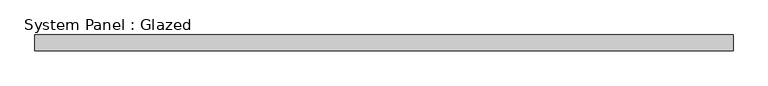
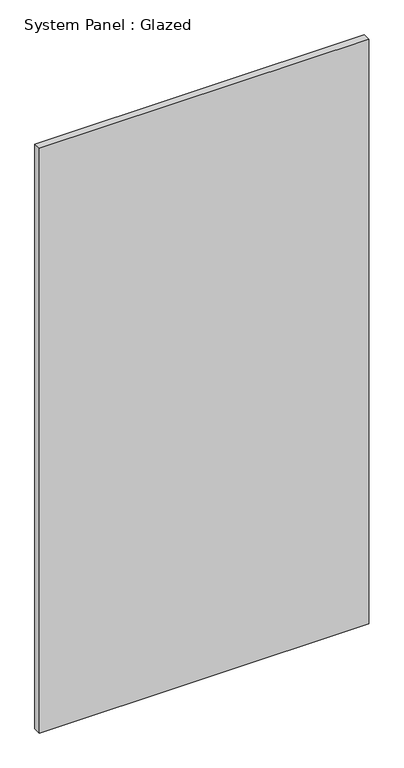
"""IFC4 building model written with IfcOpenShell, lengths in millimetres: plate geometry, System Panel : Glazed."""

import ifcopenshell
import ifcopenshell.guid

model = None  # the IFC model being written
_history = None  # IfcOwnerHistory: only IFC2X3 demands one
_inside = {}  # id of a spatial element -> (the spatial element, [elements in it])
_under = {}  # id of a project, library or spatial element -> (it, [spatial elements below it])
_declared = {}  # id of a project -> (the project, [libraries it declares])
_typed = {}  # id of a type object -> (the type object, [elements of that type])
_made_of = {}  # id of a material, layer set ... -> (it, [elements and type objects made of it])


def new_model(schema):
    """Start an empty IFC model of exactly this schema.

    Asked for "IFC4X3", IfcOpenShell would pick the latest addendum, in which some entities
    have other attributes; the version numbers below select the first issue.
    IFC2X3 requires an IfcOwnerHistory on every rooted entity: one is made here for all.
    """
    global model, _history
    if schema == "IFC4X3":
        model = ifcopenshell.file(schema_version=(4, 3, 0, 0))
    else:
        model = ifcopenshell.file(schema=schema)
    _inside.clear()
    _under.clear()
    _declared.clear()
    _typed.clear()
    _made_of.clear()
    _history = None
    if model.schema == "IFC2X3":
        org = make("IfcOrganization", Name="unknown")
        user = make(
            "IfcPersonAndOrganization",
            ThePerson=make("IfcPerson", FamilyName="unknown"),
            TheOrganization=org,
        )
        app = make(
            "IfcApplication",
            ApplicationDeveloper=org,
            Version="unknown",
            ApplicationFullName="unknown",
            ApplicationIdentifier="unknown",
        )
        _history = make(
            "IfcOwnerHistory",
            OwningUser=user,
            OwningApplication=app,
            ChangeAction="ADDED",
            CreationDate=0,
        )
    return model


def make(cls, **values):
    """One entity of the class cls with the attributes given. An attribute that is None is left unset."""
    return model.create_entity(
        cls, **{name: value for name, value in values.items() if value is not None}
    )


def rooted(cls, **values):
    """An entity with a GlobalId (a new one), such as an element, a storey or a relation."""
    return make(cls, GlobalId=ifcopenshell.guid.new(), OwnerHistory=_history, **values)


def si_unit(unit_type, name, prefix=None):
    """IfcSIUnit, for example si_unit("LENGTHUNIT", "METRE", prefix="MILLI")."""
    return make("IfcSIUnit", UnitType=unit_type, Prefix=prefix, Name=name)


def assignment(units):
    """IfcUnitAssignment: the units of a project."""
    return None if units is None else make("IfcUnitAssignment", Units=units)


def point(xyz):
    """IfcCartesianPoint."""
    return None if xyz is None else make("IfcCartesianPoint", Coordinates=xyz)


def direction(xyz):
    """IfcDirection."""
    return None if xyz is None else make("IfcDirection", DirectionRatios=xyz)


def frame(location, z_axis=None, x_axis=None):
    """IfcAxis2Placement3D, a coordinate frame: its origin and axes. An axis left out is left unset."""
    return make(
        "IfcAxis2Placement3D",
        Location=point(location),
        Axis=direction(z_axis),
        RefDirection=direction(x_axis),
    )


def origin():
    """The frame at (0, 0, 0) with its axes left unset."""
    return frame((0.0, 0.0, 0.0))


def origin_with_axes():
    """The frame at (0, 0, 0) with the z axis (0, 0, 1) and the x axis (1, 0, 0) written out."""
    return frame((0.0, 0.0, 0.0), z_axis=(0.0, 0.0, 1.0), x_axis=(1.0, 0.0, 0.0))


def place(relative_to, where):
    """IfcLocalPlacement: puts the frame where relative to a parent placement (None: the world)."""
    return make(
        "IfcLocalPlacement", PlacementRelTo=relative_to, RelativePlacement=where
    )


def context(
    kind, dimensions, precision=None, world=None, true_north=None, identifier=None
):
    """IfcGeometricRepresentationContext, for example the 3D "Model" context."""
    return make(
        "IfcGeometricRepresentationContext",
        ContextIdentifier=identifier,
        ContextType=kind,
        CoordinateSpaceDimension=dimensions,
        Precision=precision,
        WorldCoordinateSystem=world,
        TrueNorth=true_north,
    )


def project(units=None, contexts=None):
    """IfcProject with its units and contexts."""
    return rooted(
        "IfcProject",
        Name="project",
        RepresentationContexts=contexts,
        UnitsInContext=assignment(units),
    )


def spatial(cls, under=None, at=None, **own):
    """A site, building, storey or space (cls), placed at a placement, below another one or the project."""
    s = rooted(cls, ObjectPlacement=at, **own)
    if under is not None:
        _under.setdefault(under.id(), (under, []))[1].append(s)
    return s


def polyline(points):
    """IfcPolyline through the points."""
    return make("IfcPolyline", Points=[point(p) for p in points])


def outline(outer, holes=None, kind="AREA"):
    """IfcArbitraryClosedProfileDef: a profile drawn as a closed curve; with holes, ...WithVoids."""
    if holes is None:
        return make("IfcArbitraryClosedProfileDef", ProfileType=kind, OuterCurve=outer)
    return make(
        "IfcArbitraryProfileDefWithVoids",
        ProfileType=kind,
        OuterCurve=outer,
        InnerCurves=holes,
    )


def extrude(swept, where, along, depth):
    """IfcExtrudedAreaSolid: the profile swept, set in the frame where, extruded along a direction by depth."""
    return make(
        "IfcExtrudedAreaSolid",
        SweptArea=swept,
        Position=where,
        ExtrudedDirection=direction(along),
        Depth=depth,
    )


def shape(context_of_items, identifier, shape_type, items):
    """IfcShapeRepresentation: the items that make up one representation, for example the "Body"."""
    return make(
        "IfcShapeRepresentation",
        ContextOfItems=context_of_items,
        RepresentationIdentifier=identifier,
        RepresentationType=shape_type,
        Items=items,
    )


def source(mapping_origin, context_of_items, identifier, shape_type, items):
    """IfcRepresentationMap: a shape defined once, which mapped items show again and again."""
    return make(
        "IfcRepresentationMap",
        MappingOrigin=mapping_origin,
        MappedRepresentation=shape(context_of_items, identifier, shape_type, items),
    )


def transform(
    local_origin,
    x_axis=None,
    y_axis=None,
    z_axis=None,
    scale=None,
    scale2=None,
    scale3=None,
    uniform=True,
):
    """IfcCartesianTransformationOperator3D, or its non-uniform kind. x_axis, y_axis, z_axis: its Axis1, 2, 3."""
    if uniform:
        return make(
            "IfcCartesianTransformationOperator3D",
            Axis1=direction(x_axis),
            Axis2=direction(y_axis),
            LocalOrigin=point(local_origin),
            Scale=scale,
            Axis3=direction(z_axis),
        )
    return make(
        "IfcCartesianTransformationOperator3DnonUniform",
        Axis1=direction(x_axis),
        Axis2=direction(y_axis),
        LocalOrigin=point(local_origin),
        Scale=scale,
        Axis3=direction(z_axis),
        Scale2=scale2,
        Scale3=scale3,
    )


def mapped(mapping_source, mapping_target):
    """IfcMappedItem: shows the shape of a source again, moved by a transform."""
    return make(
        "IfcMappedItem", MappingSource=mapping_source, MappingTarget=mapping_target
    )


def made_of(thing, what):
    """Note that an element or type object is made of a material, layer set ...; save() writes the relation."""
    if what is not None:
        _made_of.setdefault(what.id(), (what, []))[1].append(thing)
    return thing


def element(
    cls,
    number,
    at=None,
    inside=None,
    cuts=None,
    type_object=None,
    material=None,
    context=None,
    identifier="Body",
    shape_type=None,
    held_by="IfcProductDefinitionShape",
    body=None,
    shapes=None,
    **own,
):
    """One element of the class cls, such as IfcWall. Its Tag is "e" and its number.

    at: its placement. inside: the storey or other place that contains it. cuts: it is an
    opening in that element (IfcRelVoidsElement). A single representation is given by context,
    identifier, shape_type and body (its items); several are given by shapes. held_by: the class
    of the entity that holds the representations. save() writes the other relations.
    """
    e = rooted(cls, Tag="e%d" % number, ObjectPlacement=at, **own)
    if body is not None:
        shapes = [shape(context, identifier, shape_type, body)]
    if shapes is not None:
        e.Representation = make(held_by, Representations=shapes)
    if inside is not None:
        _inside.setdefault(inside.id(), (inside, []))[1].append(e)
    if cuts is not None:
        rooted(
            "IfcRelVoidsElement", RelatingBuildingElement=cuts, RelatedOpeningElement=e
        )
    if type_object is not None:
        _typed.setdefault(type_object.id(), (type_object, []))[1].append(e)
    return made_of(e, material)


def aggregate(whole, parts):
    """IfcRelAggregates: a whole, such as a stair, and the parts it consists of."""
    return rooted("IfcRelAggregates", RelatingObject=whole, RelatedObjects=parts)


def save(model, path):
    """Write the relations noted so far, then the file.

    IfcRelAggregates (storeys below a building ...), IfcRelContainedInSpatialStructure (elements
    in a storey), IfcRelDefinesByType, IfcRelAssociatesMaterial and IfcRelDeclares: one each for
    every whole, place, type object, material and project.
    """
    for whole, parts in _under.values():
        aggregate(whole, parts)
    for where, things in _inside.values():
        rooted(
            "IfcRelContainedInSpatialStructure",
            RelatedElements=things,
            RelatingStructure=where,
        )
    for kind, things in _typed.values():
        rooted("IfcRelDefinesByType", RelatedObjects=things, RelatingType=kind)
    for what, things in _made_of.values():
        rooted("IfcRelAssociatesMaterial", RelatedObjects=things, RelatingMaterial=what)
    for by, libraries in _declared.values():
        rooted("IfcRelDeclares", RelatingContext=by, RelatedDefinitions=libraries)
    model.write(path)


def system_panel_glazed_aa2b9898(model_context):
    return source(origin(), model_context, "Body", "SweptSolid", [
        extrude(outline(polyline([(548.4875, -49.5), (-548.4875, -49.5), (-548.4875, -24.5), (548.4875, -24.5), (548.4875, -49.5)])), origin_with_axes(), (0.0, 0.0, 1.0), 2058.6),
    ])


if __name__ == "__main__":
    model = new_model("IFC4")
    model_context = context("Model", 3, world=origin())
    ifc_project = project(units=[si_unit("LENGTHUNIT", "METRE", prefix="MILLI")], contexts=[model_context])
    site = spatial("IfcSite", under=ifc_project)
    building = spatial("IfcBuilding", under=site)
    placement = place(None, origin())
    system_panel_glazed_shape = system_panel_glazed_aa2b9898(model_context)
    element("IfcPlate", 1, ObjectType="System Panel : Glazed", at=placement, inside=building, context=model_context, shape_type="MappedRepresentation", body=[
        mapped(system_panel_glazed_shape, transform((0.0, 0.0, 0.0), x_axis=(1.0, 0.0, 0.0), y_axis=(0.0, 1.0, 0.0), z_axis=(0.0, 0.0, 1.0))),
    ])
    save(model, "model.ifc")
